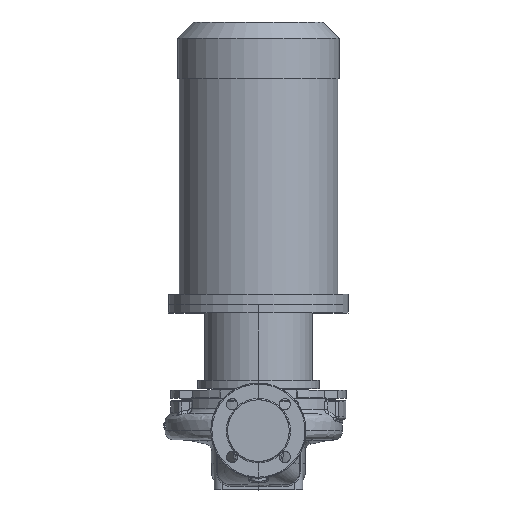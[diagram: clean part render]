
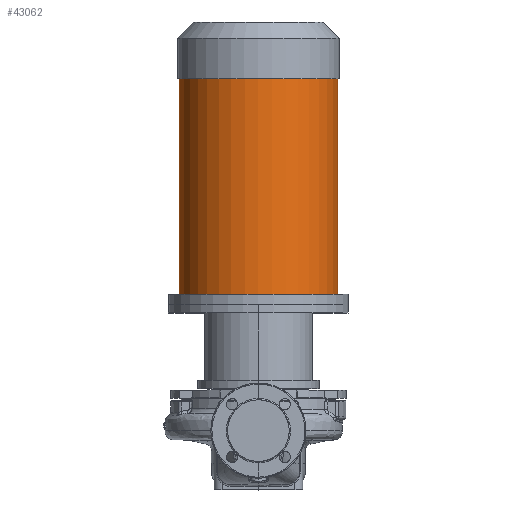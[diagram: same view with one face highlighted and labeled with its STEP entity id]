
A CAD part, top view. The second image highlights one B-rep face of the part: STEP entity #43062.
In plain terms, the highlighted cylindrical face has radius 154.5 mm (diameter 309 mm), a partial arc.
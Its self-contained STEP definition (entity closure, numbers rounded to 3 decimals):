
#3131 = AXIS2_PLACEMENT_3D ( 'NONE', #8958, #35240, #3773 ) ;
#3201 = EDGE_CURVE ( 'NONE', #34968, #18450, #14314, .T. ) ;
#3515 = CARTESIAN_POINT ( 'NONE',  ( -154.5, 265.3, 0. ) ) ;
#3773 = DIRECTION ( 'NONE',  ( -1., 0., 0. ) ) ;
#4267 = CIRCLE ( 'NONE', #3131, 154.5 ) ;
#4278 = CARTESIAN_POINT ( 'NONE',  ( -154.5, 245.3, 0. ) ) ;
#4294 = ORIENTED_EDGE ( 'NONE', *, *, #3201, .T. ) ;
#8958 = CARTESIAN_POINT ( 'NONE',  ( 0., 265.3, 0. ) ) ;
#11552 = VERTEX_POINT ( 'NONE', #58737 ) ;
#14314 = CIRCLE ( 'NONE', #33054, 154.5 ) ;
#18450 = VERTEX_POINT ( 'NONE', #65423 ) ;
#19357 = EDGE_CURVE ( 'NONE', #18450, #48401, #31433, .T. ) ;
#28659 = CARTESIAN_POINT ( 'NONE',  ( 0., 685.3, 0. ) ) ;
#31433 = LINE ( 'NONE', #4278, #34683 ) ;
#32437 = DIRECTION ( 'NONE',  ( 0., -1., 0. ) ) ;
#33054 = AXIS2_PLACEMENT_3D ( 'NONE', #28659, #49837, #39374 ) ;
#34683 = VECTOR ( 'NONE', #61446, 1000. ) ;
#34968 = VERTEX_POINT ( 'NONE', #63560 ) ;
#35240 = DIRECTION ( 'NONE',  ( 0., -1., 0. ) ) ;
#38537 = FACE_OUTER_BOUND ( 'NONE', #53658, .T. ) ;
#39374 = DIRECTION ( 'NONE',  ( -1., 0., 0. ) ) ;
#39634 = ORIENTED_EDGE ( 'NONE', *, *, #19357, .T. ) ;
#41240 = ORIENTED_EDGE ( 'NONE', *, *, #65441, .F. ) ;
#41734 = VECTOR ( 'NONE', #32437, 1000. ) ;
#43062 = ADVANCED_FACE ( 'NONE', ( #38537 ), #43446, .T. ) ;
#43446 = CYLINDRICAL_SURFACE ( 'NONE', #50111, 154.5 ) ;
#46739 = CARTESIAN_POINT ( 'NONE',  ( 0., 245.3, 0. ) ) ;
#47423 = DIRECTION ( 'NONE',  ( 0., -1., 0. ) ) ;
#48401 = VERTEX_POINT ( 'NONE', #3515 ) ;
#49837 = DIRECTION ( 'NONE',  ( 0., -1., 0. ) ) ;
#50111 = AXIS2_PLACEMENT_3D ( 'NONE', #46739, #47423, #57157 ) ;
#53658 = EDGE_LOOP ( 'NONE', ( #64733, #4294, #39634, #41240 ) ) ;
#55182 = EDGE_CURVE ( 'NONE', #34968, #11552, #65283, .T. ) ;
#57157 = DIRECTION ( 'NONE',  ( -1., 0., 0. ) ) ;
#57911 = CARTESIAN_POINT ( 'NONE',  ( 154.5, 245.3, 0. ) ) ;
#58737 = CARTESIAN_POINT ( 'NONE',  ( 154.5, 265.3, 0. ) ) ;
#61446 = DIRECTION ( 'NONE',  ( 0., -1., 0. ) ) ;
#63560 = CARTESIAN_POINT ( 'NONE',  ( 154.5, 685.3, 0. ) ) ;
#64733 = ORIENTED_EDGE ( 'NONE', *, *, #55182, .F. ) ;
#65283 = LINE ( 'NONE', #57911, #41734 ) ;
#65423 = CARTESIAN_POINT ( 'NONE',  ( -154.5, 685.3, 0. ) ) ;
#65441 = EDGE_CURVE ( 'NONE', #11552, #48401, #4267, .T. ) ;
